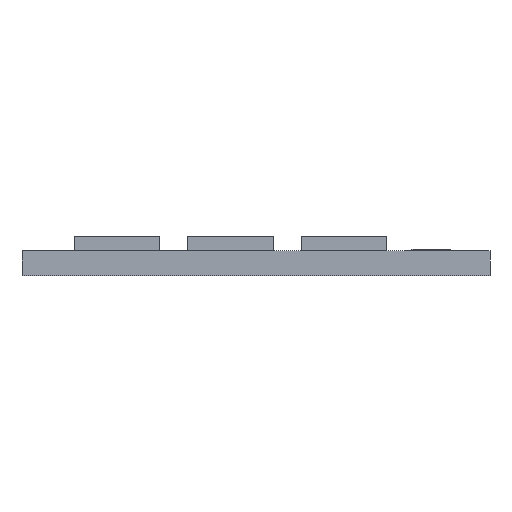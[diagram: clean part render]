
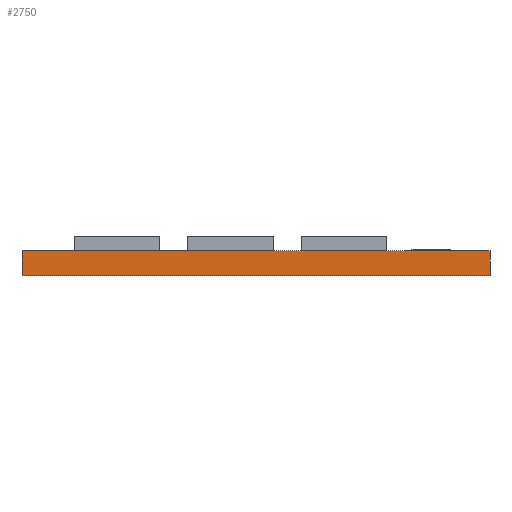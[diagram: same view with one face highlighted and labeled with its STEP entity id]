
A CAD part, left-side view. The second image highlights one B-rep face of the part: STEP entity #2750.
In plain terms, the highlighted planar face has unit normal (-1, 0, 0).
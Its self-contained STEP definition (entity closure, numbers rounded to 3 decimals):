
#2602=CARTESIAN_POINT('',(-16.5,-16.5,0.0));
#2603=VERTEX_POINT('',#2602);
#2610=CARTESIAN_POINT('',(-16.5,16.5,0.0));
#2611=VERTEX_POINT('',#2610);
#2612=CARTESIAN_POINT('',(-16.5,-16.5,0.0));
#2613=DIRECTION('',(0.0,1.0,0.0));
#2614=VECTOR('',#2613,33.0);
#2615=LINE('',#2612,#2614);
#2616=EDGE_CURVE('',#2603,#2611,#2615,.T.);
#2661=CARTESIAN_POINT('',(-16.5,-16.5,1.75));
#2662=VERTEX_POINT('',#2661);
#2669=CARTESIAN_POINT('',(-16.5,-16.5,0.0));
#2670=DIRECTION('',(0.0,0.0,1.0));
#2671=VECTOR('',#2670,1.75);
#2672=LINE('',#2669,#2671);
#2673=EDGE_CURVE('',#2603,#2662,#2672,.T.);
#2727=CARTESIAN_POINT('',(-16.5,-16.5,0.0));
#2728=DIRECTION('',(-1.0,0.0,0.0));
#2729=DIRECTION('',(0.0,0.0,1.0));
#2730=AXIS2_PLACEMENT_3D('',#2727,#2728,#2729);
#2731=PLANE('',#2730);
#2732=CARTESIAN_POINT('',(-16.5,16.5,1.75));
#2733=VERTEX_POINT('',#2732);
#2734=CARTESIAN_POINT('',(-16.5,-16.5,1.75));
#2735=DIRECTION('',(0.0,1.0,0.0));
#2736=VECTOR('',#2735,33.0);
#2737=LINE('',#2734,#2736);
#2738=EDGE_CURVE('',#2662,#2733,#2737,.T.);
#2739=ORIENTED_EDGE('',*,*,#2738,.T.);
#2740=CARTESIAN_POINT('',(-16.5,16.5,0.0));
#2741=DIRECTION('',(0.0,0.0,1.0));
#2742=VECTOR('',#2741,1.75);
#2743=LINE('',#2740,#2742);
#2744=EDGE_CURVE('',#2611,#2733,#2743,.T.);
#2745=ORIENTED_EDGE('',*,*,#2744,.F.);
#2746=ORIENTED_EDGE('',*,*,#2616,.F.);
#2747=ORIENTED_EDGE('',*,*,#2673,.T.);
#2748=EDGE_LOOP('',(#2739,#2745,#2746,#2747));
#2749=FACE_OUTER_BOUND('',#2748,.T.);
#2750=ADVANCED_FACE('',(#2749),#2731,.T.);
